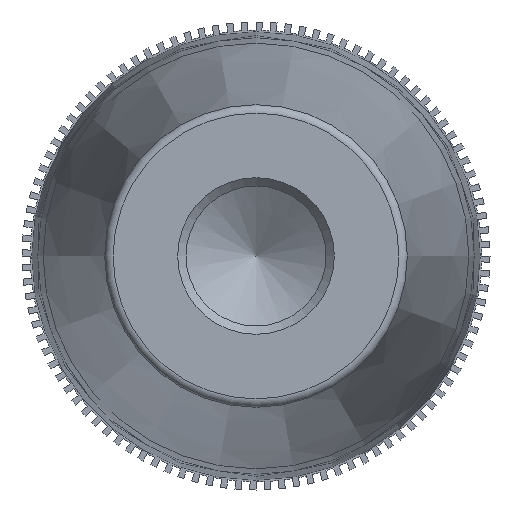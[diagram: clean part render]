
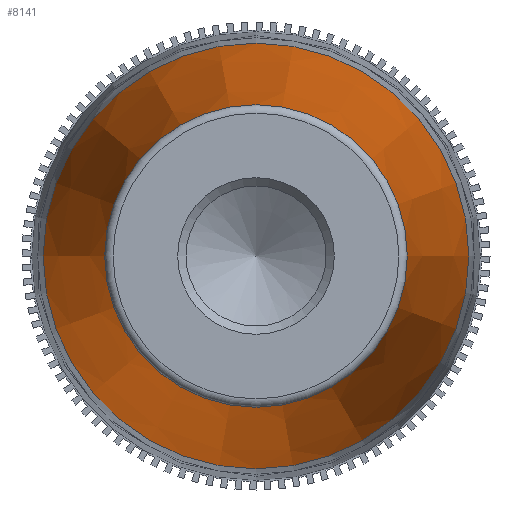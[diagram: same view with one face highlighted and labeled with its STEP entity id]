
A CAD part, left-side view. The second image highlights one B-rep face of the part: STEP entity #8141.
In plain terms, the highlighted conical face has half-angle 6.52 degrees and reference radius 11 mm.
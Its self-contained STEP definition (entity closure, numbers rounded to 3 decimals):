
#23=CONICAL_SURFACE('',#8964,11.,6.52);
#32=FACE_BOUND('',#1067,.T.);
#646=FACE_OUTER_BOUND('',#1066,.T.);
#1066=EDGE_LOOP('',(#7521));
#1067=EDGE_LOOP('',(#7522));
#1481=CIRCLE('',#8963,9.051);
#1482=CIRCLE('',#8965,12.736);
#3892=VERTEX_POINT('',#13842);
#3893=VERTEX_POINT('',#13845);
#5103=EDGE_CURVE('',#3892,#3892,#1481,.T.);
#5104=EDGE_CURVE('',#3893,#3893,#1482,.T.);
#7521=ORIENTED_EDGE('',*,*,#5104,.F.);
#7522=ORIENTED_EDGE('',*,*,#5103,.F.);
#8141=ADVANCED_FACE('',(#646,#32),#23,.T.);
#8963=AXIS2_PLACEMENT_3D('',#13843,#11403,#11404);
#8964=AXIS2_PLACEMENT_3D('',#13844,#11405,#11406);
#8965=AXIS2_PLACEMENT_3D('',#13846,#11407,#11408);
#11403=DIRECTION('center_axis',(-1.,0.,0.));
#11404=DIRECTION('ref_axis',(0.,-1.,0.));
#11405=DIRECTION('center_axis',(1.,0.,0.));
#11406=DIRECTION('ref_axis',(0.,1.,0.));
#11407=DIRECTION('center_axis',(1.,0.,0.));
#11408=DIRECTION('ref_axis',(0.,0.,-1.));
#13842=CARTESIAN_POINT('',(0.443,9.051,0.));
#13843=CARTESIAN_POINT('Origin',(0.443,0.,
0.));
#13844=CARTESIAN_POINT('Origin',(17.5,0.,0.));
#13845=CARTESIAN_POINT('',(32.689,0.,12.736));
#13846=CARTESIAN_POINT('Origin',(32.689,0.,
0.));
